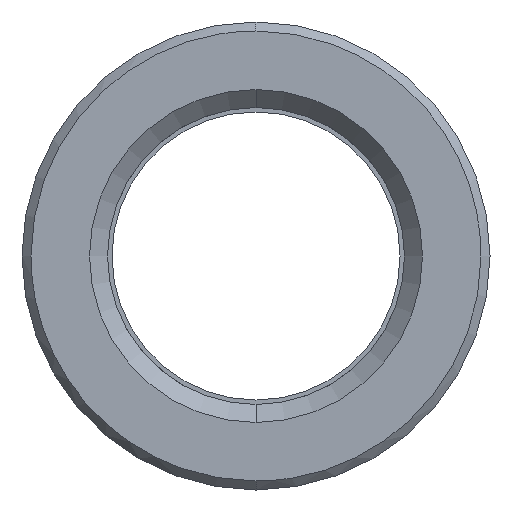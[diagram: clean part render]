
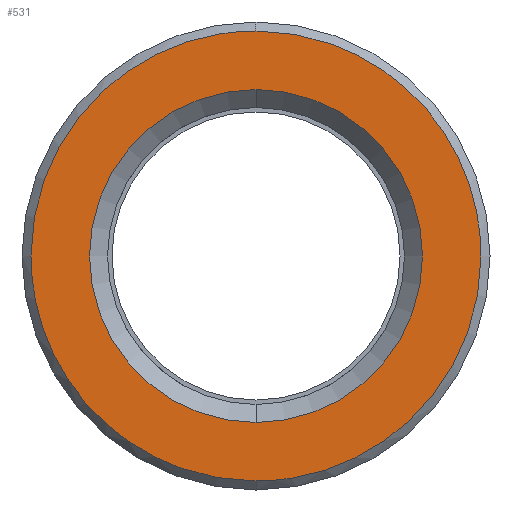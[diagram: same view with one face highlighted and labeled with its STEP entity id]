
A CAD part, left-side view. The second image highlights one B-rep face of the part: STEP entity #531.
In plain terms, the highlighted planar face has unit normal (-1, 0, 0).
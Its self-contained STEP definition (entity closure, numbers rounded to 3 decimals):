
#311=CARTESIAN_POINT('Axis2P3D Location',(0.,0.,0.)) ;
#315=CARTESIAN_POINT('Vertex',(0.,9.25,0.)) ;
#317=CARTESIAN_POINT('Vertex',(0.,0.,9.25)) ;
#320=CARTESIAN_POINT('Axis2P3D Location',(0.,0.,0.)) ;
#324=CARTESIAN_POINT('Vertex',(0.,0.,-9.25)) ;
#351=CARTESIAN_POINT('Axis2P3D Location',(0.,0.,0.)) ;
#355=CARTESIAN_POINT('Vertex',(0.,-9.25,0.)) ;
#358=CARTESIAN_POINT('Axis2P3D Location',(0.,0.,0.)) ;
#438=CARTESIAN_POINT('Axis2P3D Location',(0.,12.5,0.)) ;
#444=CARTESIAN_POINT('Control Point',(0.,0.,-12.5)) ;
#445=CARTESIAN_POINT('Control Point',(0.,0.923,-12.5)) ;
#446=CARTESIAN_POINT('Control Point',(0.,1.846,-12.415)) ;
#447=CARTESIAN_POINT('Control Point',(0.,2.758,-12.245)) ;
#448=CARTESIAN_POINT('Control Point',(0.,4.82,-11.658)) ;
#449=CARTESIAN_POINT('Control Point',(0.,6.718,-10.646)) ;
#450=CARTESIAN_POINT('Control Point',(0.,7.721,-9.943)) ;
#451=CARTESIAN_POINT('Control Point',(0.,9.535,-8.308)) ;
#452=CARTESIAN_POINT('Control Point',(0.,10.907,-6.287)) ;
#453=CARTESIAN_POINT('Control Point',(0.,11.466,-5.197)) ;
#454=CARTESIAN_POINT('Control Point',(0.,12.089,-3.503)) ;
#455=CARTESIAN_POINT('Control Point',(0.,12.399,-1.736)) ;
#456=CARTESIAN_POINT('Control Point',(0.,12.466,-1.159)) ;
#457=CARTESIAN_POINT('Control Point',(0.,12.5,-0.579)) ;
#458=CARTESIAN_POINT('Control Point',(0.,12.5,0.)) ;
#459=CARTESIAN_POINT('Vertex',(0.,0.,-12.5)) ;
#461=CARTESIAN_POINT('Vertex',(0.,12.5,0.)) ;
#465=CARTESIAN_POINT('Control Point',(0.,-12.5,0.)) ;
#466=CARTESIAN_POINT('Control Point',(0.,-12.5,-1.212)) ;
#467=CARTESIAN_POINT('Control Point',(0.,-12.353,-2.425)) ;
#468=CARTESIAN_POINT('Control Point',(0.,-12.059,-3.614)) ;
#469=CARTESIAN_POINT('Control Point',(0.,-11.189,-5.896)) ;
#470=CARTESIAN_POINT('Control Point',(0.,-9.798,-7.904)) ;
#471=CARTESIAN_POINT('Control Point',(0.,-8.984,-8.819)) ;
#472=CARTESIAN_POINT('Control Point',(0.,-7.15,-10.432)) ;
#473=CARTESIAN_POINT('Control Point',(0.,-4.984,-11.56)) ;
#474=CARTESIAN_POINT('Control Point',(0.,-3.837,-11.99)) ;
#475=CARTESIAN_POINT('Control Point',(0.,-2.366,-12.344)) ;
#476=CARTESIAN_POINT('Control Point',(0.,-0.869,-12.475)) ;
#477=CARTESIAN_POINT('Control Point',(0.,-0.579,-12.492)) ;
#478=CARTESIAN_POINT('Control Point',(0.,-0.29,-12.5)) ;
#479=CARTESIAN_POINT('Control Point',(0.,0.,-12.5)) ;
#480=CARTESIAN_POINT('Vertex',(0.,-12.5,0.)) ;
#484=CARTESIAN_POINT('Control Point',(0.,0.,12.5)) ;
#485=CARTESIAN_POINT('Control Point',(0.,-0.923,12.5)) ;
#486=CARTESIAN_POINT('Control Point',(0.,-1.846,12.415)) ;
#487=CARTESIAN_POINT('Control Point',(0.,-2.758,12.245)) ;
#488=CARTESIAN_POINT('Control Point',(0.,-4.82,11.658)) ;
#489=CARTESIAN_POINT('Control Point',(0.,-6.718,10.646)) ;
#490=CARTESIAN_POINT('Control Point',(0.,-7.721,9.943)) ;
#491=CARTESIAN_POINT('Control Point',(0.,-9.535,8.308)) ;
#492=CARTESIAN_POINT('Control Point',(0.,-10.907,6.287)) ;
#493=CARTESIAN_POINT('Control Point',(0.,-11.466,5.197)) ;
#494=CARTESIAN_POINT('Control Point',(0.,-12.089,3.503)) ;
#495=CARTESIAN_POINT('Control Point',(0.,-12.399,1.736)) ;
#496=CARTESIAN_POINT('Control Point',(0.,-12.466,1.159)) ;
#497=CARTESIAN_POINT('Control Point',(0.,-12.5,0.579)) ;
#498=CARTESIAN_POINT('Control Point',(0.,-12.5,0.)) ;
#499=CARTESIAN_POINT('Vertex',(0.,0.,12.5)) ;
#503=CARTESIAN_POINT('Control Point',(0.,12.5,0.)) ;
#504=CARTESIAN_POINT('Control Point',(0.,12.5,1.212)) ;
#505=CARTESIAN_POINT('Control Point',(0.,12.353,2.425)) ;
#506=CARTESIAN_POINT('Control Point',(0.,12.059,3.614)) ;
#507=CARTESIAN_POINT('Control Point',(0.,11.189,5.896)) ;
#508=CARTESIAN_POINT('Control Point',(0.,9.798,7.904)) ;
#509=CARTESIAN_POINT('Control Point',(0.,8.984,8.819)) ;
#510=CARTESIAN_POINT('Control Point',(0.,7.15,10.432)) ;
#511=CARTESIAN_POINT('Control Point',(0.,4.984,11.56)) ;
#512=CARTESIAN_POINT('Control Point',(0.,3.837,11.99)) ;
#513=CARTESIAN_POINT('Control Point',(0.,2.366,12.344)) ;
#514=CARTESIAN_POINT('Control Point',(0.,0.869,12.475)) ;
#515=CARTESIAN_POINT('Control Point',(0.,0.579,12.492)) ;
#516=CARTESIAN_POINT('Control Point',(0.,0.29,12.5)) ;
#517=CARTESIAN_POINT('Control Point',(0.,0.,12.5)) ;
#312=DIRECTION('Axis2P3D Direction',(-1.,0.,0.)) ;
#321=DIRECTION('Axis2P3D Direction',(-1.,0.,0.)) ;
#352=DIRECTION('Axis2P3D Direction',(-1.,0.,0.)) ;
#359=DIRECTION('Axis2P3D Direction',(-1.,0.,0.)) ;
#439=DIRECTION('Axis2P3D Direction',(-1.,0.,0.)) ;
#440=DIRECTION('Axis2P3D XDirection',(0.,0.,1.)) ;
#313=AXIS2_PLACEMENT_3D('Circle Axis2P3D',#311,#312,$) ;
#322=AXIS2_PLACEMENT_3D('Circle Axis2P3D',#320,#321,$) ;
#353=AXIS2_PLACEMENT_3D('Circle Axis2P3D',#351,#352,$) ;
#360=AXIS2_PLACEMENT_3D('Circle Axis2P3D',#358,#359,$) ;
#441=AXIS2_PLACEMENT_3D('Plane Axis2P3D',#438,#439,#440) ;
#520=ORIENTED_EDGE('',*,*,#463,.F.) ;
#521=ORIENTED_EDGE('',*,*,#482,.F.) ;
#522=ORIENTED_EDGE('',*,*,#501,.F.) ;
#523=ORIENTED_EDGE('',*,*,#518,.F.) ;
#526=ORIENTED_EDGE('',*,*,#319,.T.) ;
#527=ORIENTED_EDGE('',*,*,#362,.T.) ;
#528=ORIENTED_EDGE('',*,*,#357,.T.) ;
#529=ORIENTED_EDGE('',*,*,#326,.T.) ;
#530=FACE_BOUND('',#525,.T.) ;
#531=ADVANCED_FACE('553-16X86',(#524,#530),#442,.T.) ;
#443=B_SPLINE_CURVE_WITH_KNOTS('',5,(#444,#445,#446,#447,#448,#449,#450,#451,#452,#453,#454,#455,#456,#457,#458),.UNSPECIFIED.,.F.,.U.,(6,3,3,3,6),(27.768,34.293,42.866,51.439,55.536),.UNSPECIFIED.) ;
#464=B_SPLINE_CURVE_WITH_KNOTS('',5,(#465,#466,#467,#468,#469,#470,#471,#472,#473,#474,#475,#476,#477,#478,#479),.UNSPECIFIED.,.F.,.U.,(6,3,3,3,6),(0.,8.573,17.146,25.719,27.768),.UNSPECIFIED.) ;
#483=B_SPLINE_CURVE_WITH_KNOTS('',5,(#484,#485,#486,#487,#488,#489,#490,#491,#492,#493,#494,#495,#496,#497,#498),.UNSPECIFIED.,.F.,.U.,(6,3,3,3,6),(27.768,34.293,42.866,51.439,55.536),.UNSPECIFIED.) ;
#502=B_SPLINE_CURVE_WITH_KNOTS('',5,(#503,#504,#505,#506,#507,#508,#509,#510,#511,#512,#513,#514,#515,#516,#517),.UNSPECIFIED.,.F.,.U.,(6,3,3,3,6),(0.,8.573,17.146,25.719,27.768),.UNSPECIFIED.) ;
#314=CIRCLE('generated circle',#313,9.25) ;
#323=CIRCLE('generated circle',#322,9.25) ;
#354=CIRCLE('generated circle',#353,9.25) ;
#361=CIRCLE('generated circle',#360,9.25) ;
#319=EDGE_CURVE('',#316,#318,#314,.F.) ;
#326=EDGE_CURVE('',#325,#316,#323,.F.) ;
#357=EDGE_CURVE('',#356,#325,#354,.F.) ;
#362=EDGE_CURVE('',#318,#356,#361,.F.) ;
#463=EDGE_CURVE('',#460,#462,#443,.T.) ;
#482=EDGE_CURVE('',#481,#460,#464,.T.) ;
#501=EDGE_CURVE('',#500,#481,#483,.T.) ;
#518=EDGE_CURVE('',#462,#500,#502,.T.) ;
#519=EDGE_LOOP('',(#520,#521,#522,#523)) ;
#525=EDGE_LOOP('',(#526,#527,#528,#529)) ;
#524=FACE_OUTER_BOUND('',#519,.T.) ;
#442=PLANE('Plane',#441) ;
#316=VERTEX_POINT('',#315) ;
#318=VERTEX_POINT('',#317) ;
#325=VERTEX_POINT('',#324) ;
#356=VERTEX_POINT('',#355) ;
#460=VERTEX_POINT('',#459) ;
#462=VERTEX_POINT('',#461) ;
#481=VERTEX_POINT('',#480) ;
#500=VERTEX_POINT('',#499) ;
